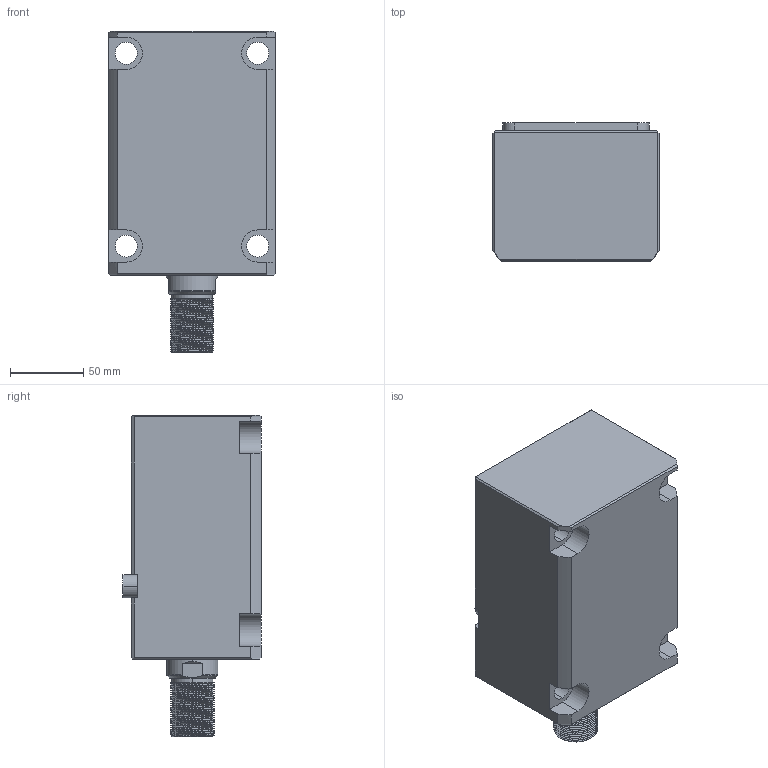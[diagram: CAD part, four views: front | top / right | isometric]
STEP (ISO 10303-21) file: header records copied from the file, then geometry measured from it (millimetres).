
FILE_DESCRIPTION (( 'STEP AP214' ), '1' );
FILE_NAME ('chtb-lam63x100w_asm.STEP', '2018-05-22T03:42:44', ( 'Windows' ), ( 'Microsoft' ), 'SwSTEP 2.0', 'SolidWorks 2015', '' );
FILE_SCHEMA (( 'AUTOMOTIVE_DESIGN' ));
Length unit declared in the file: millimetre
Products named in the file (5): CHTB-LAM63X100NBT; CHTB-LA63PJ; CHTB63X100WHSG; CHTB-63QG; chtb-lam63x100w_asm
Assembly tree (4 placements, depth 2):
  chtb-lam63x100w_asm
    CHTB-63QG
    CHTB63X100WHSG
    CHTB-LA63PJ
    CHTB-LAM63X100NBT
Bounding box: 114 x 94.5 x 220 mm (x, y, z)
Volume: 1439287.1 mm3; surface area: 191197.5 mm2
Topology: 4 solids, 4 shells, 236 faces, 696 edges, 473 vertices
Faces by surface type: cylinder 148, plane 58, bspline 15, cone 9, torus 6
Entity records: 23566 total; most frequent: CARTESIAN_POINT 17780, ORIENTED_EDGE 1384, DIRECTION 946, EDGE_CURVE 692, VERTEX_POINT 473, AXIS2_PLACEMENT_3D 344, EDGE_LOOP 259, VECTOR 258
